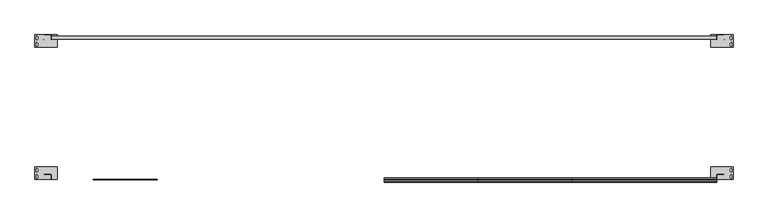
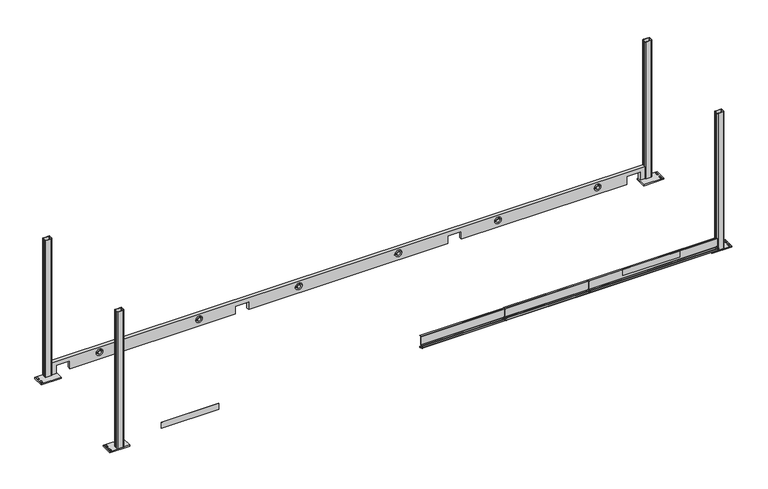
"""IFC4 building model written with IfcOpenShell, lengths in millimetres: beam geometry, Container_Frame1_Revised : Container_Frame1_Revised."""

from ifc_helpers import new_model, si_unit, point, frame, frame_2d, origin, place, context, project, spatial, polyline, circle_curve, trimmed, segment, composite_curve, outline, extrude, source, transform, mapped, element, save
from ifc_brep_helpers import plane_surface, revolved_surface, advanced_brep


def beam_2e7830ee(model_context):
    return source(origin(), model_context, "Body", "SolidModel", [
        advanced_brep(
        [(6529.5999779, -2878.0304074, 25.3752741), (6979.599836, -2878.0304074, 25.3752741), (6979.599836, -2628.0304055, 25.3752741), (6529.5999779, -2628.0304055, 25.3752741), (6957.3748049, -2798.0304291, 25.3752741), (6957.3748049, -2838.0304292, 25.3752741), (6925.6247171, -2838.0304292, 25.3752741), (6925.6246422, -2798.0304291, 25.3752741), (6957.3748049, -2668.0275841, 25.3752741), (6957.3748049, -2708.0304291, 25.3752741), (6925.6247171, -2708.0304291, 25.3752741), (6925.6246422, -2668.0275841, 25.3752741), (6529.5999779, -2878.0304074, 0.3752741), (6529.5999779, -2628.0304055, 0.3752741), (6979.599836, -2628.0304055, 0.3752741), (6979.599836, -2878.0304074, 0.3752741), (6957.3747299, -2798.0304291, 0.3752741), (6925.6247171, -2798.0304291, 0.3752741), (6925.6246422, -2838.0304292, 0.3752741), (6957.3747299, -2838.0304292, 0.3752741), (6957.3704194, -2668.0275841, 0.3752741), (6925.6290276, -2668.0275841, 0.3752741), (6925.6246422, -2708.0304291, 0.3752741), (6957.3747299, -2708.0304291, 0.3752741)],
        [
            (0, 1),
            (1, 2),
            (2, 3),
            (3, 0),
            (4, 5),
            (5, 6, circle_curve(frame((6941.4997235, -2838.0304292, 25.3752741), z_axis=(0.0, 0.0, -1.0), x_axis=(-1.0, 0.0, 0.0)), 15.8750064)),
            (6, 7),
            (7, 4, circle_curve(frame((6941.4997235, -2798.0304291, 25.3752741), z_axis=(0.0, 0.0, -1.0), x_axis=(-1.0, 0.0, 0.0)), 15.8750064)),
            (8, 9),
            (9, 10, circle_curve(frame((6941.4997235, -2708.0304291, 25.3752741), z_axis=(0.0, 0.0, -1.0), x_axis=(-1.0, 0.0, 0.0)), 15.8750064)),
            (10, 11),
            (11, 8, circle_curve(frame((6941.4997235, -2668.0275841, 25.3752741), z_axis=(0.0, 0.0, -1.0), x_axis=(-1.0, 0.0, 0.0)), 15.8706959)),
            (12, 13),
            (13, 14),
            (14, 15),
            (15, 12),
            (16, 17, circle_curve(frame((6941.4997235, -2798.0304291, 0.3752741), z_axis=(0.0, 0.0, 1.0), x_axis=(-1.0, 0.0, 0.0)), 15.8750064)),
            (17, 18),
            (18, 19, circle_curve(frame((6941.4997235, -2838.0304292, 0.3752741), z_axis=(0.0, 0.0, 1.0), x_axis=(-1.0, 0.0, 0.0)), 15.8750064)),
            (19, 16),
            (20, 21, circle_curve(frame((6941.4997235, -2668.0275841, 0.3752741), z_axis=(0.0, 0.0, 1.0), x_axis=(-1.0, 0.0, 0.0)), 15.8706959)),
            (21, 22),
            (22, 23, circle_curve(frame((6941.4997235, -2708.0304291, 0.3752741), z_axis=(0.0, 0.0, 1.0), x_axis=(-1.0, 0.0, 0.0)), 15.8750064)),
            (23, 20),
            (0, 12),
            (15, 1),
            (14, 2),
            (13, 3),
            (4, 16),
            (19, 5),
            (18, 6),
            (17, 7),
            (8, 20),
            (23, 9),
            (22, 10),
            (21, 11),
        ],
        [
            plane_surface(frame((6979.599836, -2878.0304074, 25.3752741), z_axis=(0.0, 0.0, 1.0), x_axis=(1.0, 0.0, 0.0))),
            plane_surface(frame((6979.599836, -2878.0304074, 0.3752741), z_axis=(0.0, 0.0, -1.0), x_axis=(-1.0, 0.0, 0.0))),
            plane_surface(frame((6529.5999779, -2878.0304074, 25.3752741), z_axis=(0.0, -1.0, 0.0), x_axis=(0.0, 0.0, -1.0))),
            plane_surface(frame((6979.599836, -2878.0304074, 25.3752741), z_axis=(1.0, 0.0, 0.0), x_axis=(0.0, 0.0, -1.0))),
            plane_surface(frame((6979.599836, -2628.0304055, 25.3752741), z_axis=(0.0, 1.0, 0.0), x_axis=(0.0, 0.0, -1.0))),
            plane_surface(frame((6529.5999779, -2628.0304055, 25.3752741), z_axis=(-1.0, 0.0, 0.0), x_axis=(0.0, 0.0, -1.0))),
            plane_surface(frame((6957.3748049, -2798.0304291, 25.3752741), z_axis=(-1.0, 0.0, 0.0), x_axis=(0.0, 0.0, -1.0))),
            revolved_surface(polyline([(6925.6247171, -2838.0304292, 0.3752741), (6925.6247171, -2838.0304292, 25.3752741)]), (6941.4997235, -2838.0304292, 0.3752741), (0.0, 0.0, -1.0)),
            plane_surface(frame((6925.6246422, -2838.0304292, 25.3752741), z_axis=(1.0, 0.0, 0.0), x_axis=(0.0, 0.0, -1.0))),
            revolved_surface(polyline([(6925.6247171, -2798.0304291, 0.3752741), (6925.6247171, -2798.0304291, 25.3752741)]), (6941.4997235, -2798.0304291, 0.3752741), (0.0, 0.0, -1.0)),
            plane_surface(frame((6957.3748049, -2668.0275841, 25.3752741), z_axis=(-1.0, 0.0, 0.0), x_axis=(0.0, 0.0, -1.0))),
            revolved_surface(polyline([(6925.6247171, -2708.0304291, 0.3752741), (6925.6247171, -2708.0304291, 25.3752741)]), (6941.4997235, -2708.0304291, 0.3752741), (0.0, 0.0, -1.0)),
            plane_surface(frame((6925.6246422, -2708.0304291, 25.3752741), z_axis=(1.0, 0.0, 0.0), x_axis=(0.0, 0.0, -1.0))),
            revolved_surface(polyline([(6925.6290276, -2668.0275841, 0.3752741), (6925.6290276, -2668.0275841, 25.3752741)]), (6941.4997235, -2668.0275841, 0.3752741), (0.0, 0.0, -1.0)),
        ],
        [
            (0, [[1, 2, 3, 4], [5, 6, 7, 8], [9, 10, 11, 12]]),
            (1, [[13, 14, 15, 16], [17, 18, 19, 20], [21, 22, 23, 24]]),
            (2, [[-1, 25, -16, 26]]),
            (3, [[-2, -26, -15, 27]]),
            (4, [[-3, -27, -14, 28]]),
            (5, [[-4, -28, -13, -25]]),
            (6, [[-5, 29, -20, 30]]),
            (7, [[-6, -30, -19, 31]]),
            (8, [[-7, -31, -18, 32]]),
            (9, [[-8, -32, -17, -29]]),
            (10, [[-9, 33, -24, 34]]),
            (11, [[-10, -34, -23, 35]]),
            (12, [[-11, -35, -22, 36]]),
            (13, [[-12, -36, -21, -33]]),
        ],
    ),
        advanced_brep(
        [(-6529.5999779, -2878.0304074, 25.3752743), (-6529.5999779, -2628.0304055, 25.3752743), (-6979.599836, -2628.0304055, 25.3752743), (-6979.599836, -2878.0304074, 25.3752743), (-6957.3747299, -2798.0304291, 25.3752743), (-6925.6247171, -2798.0304291, 25.3752743), (-6925.6246422, -2838.0304291, 25.3752743), (-6957.3747299, -2838.0304291, 25.3752743), (-6957.3704194, -2668.0275841, 25.3752743), (-6925.6290276, -2668.0275841, 25.3752743), (-6925.6246422, -2708.0304291, 25.3752743), (-6957.3747299, -2708.0304291, 25.3752743), (-6529.5999779, -2878.0304074, 0.3752741), (-6979.599836, -2878.0304074, 0.3752741), (-6979.599836, -2628.0304055, 0.3752741), (-6529.5999779, -2628.0304055, 0.3752741), (-6957.3748049, -2798.0304291, 0.3752741), (-6957.3748049, -2838.0304291, 0.3752741), (-6925.6247171, -2838.0304291, 0.3752741), (-6925.6246422, -2798.0304291, 0.3752741), (-6957.3748049, -2668.0275841, 0.3752741), (-6957.3748049, -2708.0304291, 0.3752741), (-6925.6247171, -2708.0304291, 0.3752741), (-6925.6246422, -2668.0275841, 0.3752741)],
        [
            (0, 1),
            (1, 2),
            (2, 3),
            (3, 0),
            (4, 5, circle_curve(frame((-6941.4997235, -2798.0304291, 25.3752743), z_axis=(0.0, 0.0, -1.0), x_axis=(1.0, 0.0, 0.0)), 15.8750064)),
            (5, 6),
            (6, 7, circle_curve(frame((-6941.4997235, -2838.0304291, 25.3752743), z_axis=(0.0, 0.0, -1.0), x_axis=(1.0, 0.0, 0.0)), 15.8750064)),
            (7, 4),
            (8, 9, circle_curve(frame((-6941.4997235, -2668.0275841, 25.3752743), z_axis=(0.0, 0.0, -1.0), x_axis=(1.0, 0.0, 0.0)), 15.8706959)),
            (9, 10),
            (10, 11, circle_curve(frame((-6941.4997235, -2708.0304291, 25.3752743), z_axis=(0.0, 0.0, -1.0), x_axis=(1.0, 0.0, 0.0)), 15.8750064)),
            (11, 8),
            (12, 13),
            (13, 14),
            (14, 15),
            (15, 12),
            (16, 17),
            (17, 18, circle_curve(frame((-6941.4997235, -2838.0304291, 0.3752741), z_axis=(0.0, 0.0, 1.0), x_axis=(1.0, 0.0, 0.0)), 15.8750064)),
            (18, 19),
            (19, 16, circle_curve(frame((-6941.4997235, -2798.0304291, 0.3752741), z_axis=(0.0, 0.0, 1.0), x_axis=(1.0, 0.0, 0.0)), 15.8750064)),
            (20, 21),
            (21, 22, circle_curve(frame((-6941.4997235, -2708.0304291, 0.3752741), z_axis=(0.0, 0.0, 1.0), x_axis=(1.0, 0.0, 0.0)), 15.8750064)),
            (22, 23),
            (23, 20, circle_curve(frame((-6941.4997235, -2668.0275841, 0.3752741), z_axis=(0.0, 0.0, 1.0), x_axis=(1.0, 0.0, 0.0)), 15.8706959)),
            (3, 13),
            (12, 0),
            (2, 14),
            (1, 15),
            (7, 17),
            (16, 4),
            (6, 18),
            (5, 19),
            (11, 21),
            (20, 8),
            (10, 22),
            (9, 23),
        ],
        [
            plane_surface(frame((-6529.5999779, -2878.0304074, 25.3752743), z_axis=(0.0, 0.0, 1.0), x_axis=(0.0, 1.0, 0.0))),
            plane_surface(frame((-6529.5999779, -2878.0304074, 0.3752741), z_axis=(0.0, 0.0, -1.0), x_axis=(0.0, -1.0, 0.0))),
            plane_surface(frame((-6979.599836, -2878.0304074, 25.3752743), z_axis=(0.0, -1.0, 0.0), x_axis=(0.0, 0.0, -1.0))),
            plane_surface(frame((-6979.599836, -2628.0304055, 25.3752743), z_axis=(-1.0, 0.0, 0.0), x_axis=(0.0, 0.0, -1.0))),
            plane_surface(frame((-6529.5999779, -2628.0304055, 25.3752743), z_axis=(0.0, 1.0, 0.0), x_axis=(0.0, 0.0, -1.0))),
            plane_surface(frame((-6529.5999779, -2878.0304074, 25.3752743), z_axis=(1.0, 0.0, 0.0), x_axis=(0.0, 0.0, -1.0))),
            plane_surface(frame((-6957.3748049, -2838.0304291, 25.3752743), z_axis=(1.0, 0.0, 0.0), x_axis=(0.0, 0.0, -1.0))),
            revolved_surface(polyline([(-6925.6247171, -2838.0304291, 0.3752741), (-6925.6247171, -2838.0304291, 25.3752743)]), (-6941.4997235, -2838.0304291, 0.3752741), (0.0, 0.0, -1.0)),
            plane_surface(frame((-6925.6246422, -2798.0304291, 25.3752743), z_axis=(-1.0, 0.0, 0.0), x_axis=(0.0, 0.0, -1.0))),
            revolved_surface(polyline([(-6925.6247171, -2798.0304291, 0.3752741), (-6925.6247171, -2798.0304291, 25.3752743)]), (-6941.4997235, -2798.0304291, 0.3752741), (0.0, 0.0, -1.0)),
            plane_surface(frame((-6957.3748049, -2708.0304291, 25.3752743), z_axis=(1.0, 0.0, 0.0), x_axis=(0.0, 0.0, -1.0))),
            revolved_surface(polyline([(-6925.6247171, -2708.0304291, 0.3752741), (-6925.6247171, -2708.0304291, 25.3752743)]), (-6941.4997235, -2708.0304291, 0.3752741), (0.0, 0.0, -1.0)),
            plane_surface(frame((-6925.6246422, -2668.0275841, 25.3752743), z_axis=(-1.0, 0.0, 0.0), x_axis=(0.0, 0.0, -1.0))),
            revolved_surface(polyline([(-6925.6290276, -2668.0275841, 0.3752741), (-6925.6290276, -2668.0275841, 25.3752743)]), (-6941.4997235, -2668.0275841, 0.3752741), (0.0, 0.0, -1.0)),
        ],
        [
            (0, [[1, 2, 3, 4], [5, 6, 7, 8], [9, 10, 11, 12]]),
            (1, [[13, 14, 15, 16], [17, 18, 19, 20], [21, 22, 23, 24]]),
            (2, [[-4, 25, -13, 26]]),
            (3, [[-3, 27, -14, -25]]),
            (4, [[-2, 28, -15, -27]]),
            (5, [[-1, -26, -16, -28]]),
            (6, [[-8, 29, -17, 30]]),
            (7, [[-7, 31, -18, -29]]),
            (8, [[-6, 32, -19, -31]]),
            (9, [[-5, -30, -20, -32]]),
            (10, [[-12, 33, -21, 34]]),
            (11, [[-11, 35, -22, -33]]),
            (12, [[-10, 36, -23, -35]]),
            (13, [[-9, -34, -24, -36]]),
        ],
    ),
        advanced_brep(
        [(6529.5999779, 21.9695491, 25.3752741), (6529.5999779, -228.0304528, 25.3752741), (6979.599836, -228.0304528, 25.3752741), (6979.599836, 21.9695491, 25.3752741), (6957.3747299, -58.0304291, 25.3752741), (6925.6247171, -58.0304291, 25.3752741), (6925.6246422, -18.0304291, 25.3752741), (6957.3747299, -18.0304291, 25.3752741), (6957.3704194, -188.0332742, 25.3752741), (6925.6290276, -188.0332742, 25.3752741), (6925.6246422, -148.0304291, 25.3752741), (6957.3747299, -148.0304291, 25.3752741), (6529.5999779, 21.9695491, 0.3752741), (6979.599836, 21.9695491, 0.3752741), (6979.599836, -228.0304528, 0.3752741), (6529.5999779, -228.0304528, 0.3752741), (6957.3748049, -58.0304291, 0.3752741), (6957.3748049, -18.0304291, 0.3752741), (6925.6247171, -18.0304291, 0.3752741), (6925.6246422, -58.0304291, 0.3752741), (6957.3748049, -188.0332742, 0.3752741), (6957.3748049, -148.0304291, 0.3752741), (6925.6247171, -148.0304291, 0.3752741), (6925.6246422, -188.0332742, 0.3752741)],
        [
            (0, 1),
            (1, 2),
            (2, 3),
            (3, 0),
            (4, 5, circle_curve(frame((6941.4997235, -58.0304291, 25.3752741), z_axis=(0.0, 0.0, -1.0), x_axis=(-1.0, 0.0, 0.0)), 15.8750064)),
            (5, 6),
            (6, 7, circle_curve(frame((6941.4997235, -18.0304291, 25.3752741), z_axis=(0.0, 0.0, -1.0), x_axis=(-1.0, 0.0, 0.0)), 15.8750064)),
            (7, 4),
            (8, 9, circle_curve(frame((6941.4997235, -188.0332742, 25.3752741), z_axis=(0.0, 0.0, -1.0), x_axis=(-1.0, 0.0, 0.0)), 15.8706959)),
            (9, 10),
            (10, 11, circle_curve(frame((6941.4997235, -148.0304291, 25.3752741), z_axis=(0.0, 0.0, -1.0), x_axis=(-1.0, 0.0, 0.0)), 15.8750064)),
            (11, 8),
            (12, 13),
            (13, 14),
            (14, 15),
            (15, 12),
            (16, 17),
            (17, 18, circle_curve(frame((6941.4997235, -18.0304291, 0.3752741), z_axis=(0.0, 0.0, 1.0), x_axis=(-1.0, 0.0, 0.0)), 15.8750064)),
            (18, 19),
            (19, 16, circle_curve(frame((6941.4997235, -58.0304291, 0.3752741), z_axis=(0.0, 0.0, 1.0), x_axis=(-1.0, 0.0, 0.0)), 15.8750064)),
            (20, 21),
            (21, 22, circle_curve(frame((6941.4997235, -148.0304291, 0.3752741), z_axis=(0.0, 0.0, 1.0), x_axis=(-1.0, 0.0, 0.0)), 15.8750064)),
            (22, 23),
            (23, 20, circle_curve(frame((6941.4997235, -188.0332742, 0.3752741), z_axis=(0.0, 0.0, 1.0), x_axis=(-1.0, 0.0, 0.0)), 15.8706959)),
            (3, 13),
            (12, 0),
            (2, 14),
            (1, 15),
            (7, 17),
            (16, 4),
            (6, 18),
            (5, 19),
            (11, 21),
            (20, 8),
            (10, 22),
            (9, 23),
        ],
        [
            plane_surface(frame((6529.5999779, 21.9695491, 25.3752741), z_axis=(0.0, 0.0, 1.0), x_axis=(0.0, -1.0, 0.0))),
            plane_surface(frame((6529.5999779, 21.9695491, 0.3752741), z_axis=(0.0, 0.0, -1.0), x_axis=(0.0, 1.0, 0.0))),
            plane_surface(frame((6979.599836, 21.9695491, 25.3752741), z_axis=(0.0, 1.0, 0.0), x_axis=(0.0, 0.0, -1.0))),
            plane_surface(frame((6979.599836, -228.0304528, 25.3752741), z_axis=(1.0, 0.0, 0.0), x_axis=(0.0, 0.0, -1.0))),
            plane_surface(frame((6529.5999779, -228.0304528, 25.3752741), z_axis=(0.0, -1.0, 0.0), x_axis=(0.0, 0.0, -1.0))),
            plane_surface(frame((6529.5999779, 21.9695491, 25.3752741), z_axis=(-1.0, 0.0, 0.0), x_axis=(0.0, 0.0, -1.0))),
            plane_surface(frame((6957.3748049, -18.0304291, 25.3752741), z_axis=(-1.0, 0.0, 0.0), x_axis=(0.0, 0.0, -1.0))),
            revolved_surface(polyline([(6925.6247171, -18.0304291, 0.3752741), (6925.6247171, -18.0304291, 25.3752741)]), (6941.4997235, -18.0304291, 0.3752741), (0.0, 0.0, -1.0)),
            plane_surface(frame((6925.6246422, -58.0304291, 25.3752741), z_axis=(1.0, 0.0, 0.0), x_axis=(0.0, 0.0, -1.0))),
            revolved_surface(polyline([(6925.6247171, -58.0304291, 0.3752741), (6925.6247171, -58.0304291, 25.3752741)]), (6941.4997235, -58.0304291, 0.3752741), (0.0, 0.0, -1.0)),
            plane_surface(frame((6957.3748049, -148.0304291, 25.3752741), z_axis=(-1.0, 0.0, 0.0), x_axis=(0.0, 0.0, -1.0))),
            revolved_surface(polyline([(6925.6247171, -148.0304291, 0.3752741), (6925.6247171, -148.0304291, 25.3752741)]), (6941.4997235, -148.0304291, 0.3752741), (0.0, 0.0, -1.0)),
            plane_surface(frame((6925.6246422, -188.0332742, 25.3752741), z_axis=(1.0, 0.0, 0.0), x_axis=(0.0, 0.0, -1.0))),
            revolved_surface(polyline([(6925.6290276, -188.0332742, 0.3752741), (6925.6290276, -188.0332742, 25.3752741)]), (6941.4997235, -188.0332742, 0.3752741), (0.0, 0.0, -1.0)),
        ],
        [
            (0, [[1, 2, 3, 4], [5, 6, 7, 8], [9, 10, 11, 12]]),
            (1, [[13, 14, 15, 16], [17, 18, 19, 20], [21, 22, 23, 24]]),
            (2, [[-4, 25, -13, 26]]),
            (3, [[-3, 27, -14, -25]]),
            (4, [[-2, 28, -15, -27]]),
            (5, [[-1, -26, -16, -28]]),
            (6, [[-8, 29, -17, 30]]),
            (7, [[-7, 31, -18, -29]]),
            (8, [[-6, 32, -19, -31]]),
            (9, [[-5, -30, -20, -32]]),
            (10, [[-12, 33, -21, 34]]),
            (11, [[-11, 35, -22, -33]]),
            (12, [[-10, 36, -23, -35]]),
            (13, [[-9, -34, -24, -36]]),
        ],
    ),
        advanced_brep(
        [(-6529.5999779, 21.9695491, 25.3752741), (-6979.599836, 21.9695491, 25.3752741), (-6979.599836, -228.0304528, 25.3752741), (-6529.5999779, -228.0304528, 25.3752741), (-6957.3748049, -58.0304291, 25.3752741), (-6957.3748049, -18.0304291, 25.3752741), (-6925.6247171, -18.0304291, 25.3752741), (-6925.6246422, -58.0304291, 25.3752741), (-6957.3748049, -188.0332742, 25.3752741), (-6957.3748049, -148.0304291, 25.3752741), (-6925.6247171, -148.0304291, 25.3752741), (-6925.6246422, -188.0332742, 25.3752741), (-6529.5999779, 21.9695491, 0.3752741), (-6529.5999779, -228.0304528, 0.3752741), (-6979.599836, -228.0304528, 0.3752741), (-6979.599836, 21.9695491, 0.3752741), (-6957.3747299, -58.0304291, 0.3752741), (-6925.6247171, -58.0304291, 0.3752741), (-6925.6246422, -18.0304291, 0.3752741), (-6957.3747299, -18.0304291, 0.3752741), (-6957.3704194, -188.0332742, 0.3752741), (-6925.6290276, -188.0332742, 0.3752741), (-6925.6246422, -148.0304291, 0.3752741), (-6957.3747299, -148.0304291, 0.3752741)],
        [
            (0, 1),
            (1, 2),
            (2, 3),
            (3, 0),
            (4, 5),
            (5, 6, circle_curve(frame((-6941.4997235, -18.0304291, 25.3752741), z_axis=(0.0, 0.0, -1.0), x_axis=(1.0, 0.0, 0.0)), 15.8750064)),
            (6, 7),
            (7, 4, circle_curve(frame((-6941.4997235, -58.0304291, 25.3752741), z_axis=(0.0, 0.0, -1.0), x_axis=(1.0, 0.0, 0.0)), 15.8750064)),
            (8, 9),
            (9, 10, circle_curve(frame((-6941.4997235, -148.0304291, 25.3752741), z_axis=(0.0, 0.0, -1.0), x_axis=(1.0, 0.0, 0.0)), 15.8750064)),
            (10, 11),
            (11, 8, circle_curve(frame((-6941.4997235, -188.0332742, 25.3752741), z_axis=(0.0, 0.0, -1.0), x_axis=(1.0, 0.0, 0.0)), 15.8706959)),
            (12, 13),
            (13, 14),
            (14, 15),
            (15, 12),
            (16, 17, circle_curve(frame((-6941.4997235, -58.0304291, 0.3752741), z_axis=(0.0, 0.0, 1.0), x_axis=(1.0, 0.0, 0.0)), 15.8750064)),
            (17, 18),
            (18, 19, circle_curve(frame((-6941.4997235, -18.0304291, 0.3752741), z_axis=(0.0, 0.0, 1.0), x_axis=(1.0, 0.0, 0.0)), 15.8750064)),
            (19, 16),
            (20, 21, circle_curve(frame((-6941.4997235, -188.0332742, 0.3752741), z_axis=(0.0, 0.0, 1.0), x_axis=(1.0, 0.0, 0.0)), 15.8706959)),
            (21, 22),
            (22, 23, circle_curve(frame((-6941.4997235, -148.0304291, 0.3752741), z_axis=(0.0, 0.0, 1.0), x_axis=(1.0, 0.0, 0.0)), 15.8750064)),
            (23, 20),
            (0, 12),
            (15, 1),
            (14, 2),
            (13, 3),
            (4, 16),
            (19, 5),
            (18, 6),
            (17, 7),
            (8, 20),
            (23, 9),
            (22, 10),
            (21, 11),
        ],
        [
            plane_surface(frame((-6979.599836, 21.9695491, 25.3752741), z_axis=(0.0, 0.0, 1.0), x_axis=(-1.0, 0.0, 0.0))),
            plane_surface(frame((-6979.599836, 21.9695491, 0.3752741), z_axis=(0.0, 0.0, -1.0), x_axis=(1.0, 0.0, 0.0))),
            plane_surface(frame((-6529.5999779, 21.9695491, 25.3752741), z_axis=(0.0, 1.0, 0.0), x_axis=(0.0, 0.0, -1.0))),
            plane_surface(frame((-6979.599836, 21.9695491, 25.3752741), z_axis=(-1.0, 0.0, 0.0), x_axis=(0.0, 0.0, -1.0))),
            plane_surface(frame((-6979.599836, -228.0304528, 25.3752741), z_axis=(0.0, -1.0, 0.0), x_axis=(0.0, 0.0, -1.0))),
            plane_surface(frame((-6529.5999779, -228.0304528, 25.3752741), z_axis=(1.0, 0.0, 0.0), x_axis=(0.0, 0.0, -1.0))),
            plane_surface(frame((-6957.3748049, -58.0304291, 25.3752741), z_axis=(1.0, 0.0, 0.0), x_axis=(0.0, 0.0, -1.0))),
            revolved_surface(polyline([(-6925.6247171, -18.0304291, 0.3752741), (-6925.6247171, -18.0304291, 25.3752741)]), (-6941.4997235, -18.0304291, 0.3752741), (0.0, 0.0, -1.0)),
            plane_surface(frame((-6925.6246422, -18.0304291, 25.3752741), z_axis=(-1.0, 0.0, 0.0), x_axis=(0.0, 0.0, -1.0))),
            revolved_surface(polyline([(-6925.6247171, -58.0304291, 0.3752741), (-6925.6247171, -58.0304291, 25.3752741)]), (-6941.4997235, -58.0304291, 0.3752741), (0.0, 0.0, -1.0)),
            plane_surface(frame((-6957.3748049, -188.0332742, 25.3752741), z_axis=(1.0, 0.0, 0.0), x_axis=(0.0, 0.0, -1.0))),
            revolved_surface(polyline([(-6925.6247171, -148.0304291, 0.3752741), (-6925.6247171, -148.0304291, 25.3752741)]), (-6941.4997235, -148.0304291, 0.3752741), (0.0, 0.0, -1.0)),
            plane_surface(frame((-6925.6246422, -148.0304291, 25.3752741), z_axis=(-1.0, 0.0, 0.0), x_axis=(0.0, 0.0, -1.0))),
            revolved_surface(polyline([(-6925.6290276, -188.0332742, 0.3752741), (-6925.6290276, -188.0332742, 25.3752741)]), (-6941.4997235, -188.0332742, 0.3752741), (0.0, 0.0, -1.0)),
        ],
        [
            (0, [[1, 2, 3, 4], [5, 6, 7, 8], [9, 10, 11, 12]]),
            (1, [[13, 14, 15, 16], [17, 18, 19, 20], [21, 22, 23, 24]]),
            (2, [[-1, 25, -16, 26]]),
            (3, [[-2, -26, -15, 27]]),
            (4, [[-3, -27, -14, 28]]),
            (5, [[-4, -28, -13, -25]]),
            (6, [[-5, 29, -20, 30]]),
            (7, [[-6, -30, -19, 31]]),
            (8, [[-7, -31, -18, 32]]),
            (9, [[-8, -32, -17, -29]]),
            (10, [[-9, 33, -24, 34]]),
            (11, [[-10, -34, -23, 35]]),
            (12, [[-11, -35, -22, 36]]),
            (13, [[-12, -36, -21, -33]]),
        ],
    ),
        extrude(outline(composite_curve([segment(polyline([(6791.2086196, -79.6304509), (6670.7913804, -79.6304509)]), True, "CONTINUOUS"), segment(trimmed(circle_curve(frame_2d((6670.7913804, -63.6390705)), 15.9913804), [point((6670.7913804, -79.6304509))], [point((6654.8, -63.6390705))], False, "CARTESIAN"), True, "CONTINUOUS"), segment(polyline([(6654.8, -63.6390705), (6654.8, 5.9781687)]), True, "CONTINUOUS"), segment(trimmed(circle_curve(frame_2d((6670.7913804, 5.9781687)), 15.9913804), [point((6654.8, 5.9781687))], [point((6670.7913804, 21.9695491))], False, "CARTESIAN"), True, "CONTINUOUS"), segment(polyline([(6670.7913804, 21.9695491), (6791.2086196, 21.9695491)]), True, "CONTINUOUS"), segment(trimmed(circle_curve(frame_2d((6791.2086196, 5.9781687)), 15.9913804), [point((6791.2086196, 21.9695491))], [point((6807.2, 5.9781687))], False, "CARTESIAN"), True, "CONTINUOUS"), segment(polyline([(6807.2, 5.9781687), (6807.2, -63.6390705)]), True, "CONTINUOUS"), segment(trimmed(circle_curve(frame_2d((6791.2086196, -63.6390705)), 15.9913804), [point((6807.2, -63.6390705))], [point((6791.2086196, -79.6304509))], False, "CARTESIAN"), True, "CONTINUOUS")], self_intersect=False), holes=[composite_curve([segment(trimmed(circle_curve(frame_2d((6791.2086196, -63.6390705)), 7.9913804), [point((6791.2086196, -71.6304509))], [point((6799.2, -63.6390705))], True, "CARTESIAN"), True, "CONTINUOUS"), segment(polyline([(6799.2, -63.6390705), (6799.2, 5.9781687)]), True, "CONTINUOUS"), segment(trimmed(circle_curve(frame_2d((6791.2086196, 5.9781687)), 7.9913804), [point((6799.2, 5.9781687))], [point((6791.2086196, 13.9695491))], True, "CARTESIAN"), True, "CONTINUOUS"), segment(polyline([(6791.2086196, 13.9695491), (6670.7913804, 13.9695491)]), True, "CONTINUOUS"), segment(trimmed(circle_curve(frame_2d((6670.7913804, 5.9781687)), 7.9913804), [point((6670.7913804, 13.9695491))], [point((6662.8, 5.9781687))], True, "CARTESIAN"), True, "CONTINUOUS"), segment(polyline([(6662.8, 5.9781687), (6662.8, -63.6390705)]), True, "CONTINUOUS"), segment(trimmed(circle_curve(frame_2d((6670.7913804, -63.6390705)), 7.9913804), [point((6662.8, -63.6390705))], [point((6670.7913804, -71.6304509))], True, "CARTESIAN"), True, "CONTINUOUS"), segment(polyline([(6670.7913804, -71.6304509), (6791.2086196, -71.6304509)]), True, "CONTINUOUS")], self_intersect=False)]), frame((0.0, 0.0, 25.0), z_axis=(0.0, 0.0, 1.0), x_axis=(1.0, 0.0, 0.0)), (0.0, 0.0, 1.0), 3250.0),
        extrude(outline(composite_curve([segment(trimmed(circle_curve(frame_2d((-6791.2086196, -63.6390705)), 15.9913804), [point((-6791.2086196, -79.6304509))], [point((-6807.2, -63.6390705))], False, "CARTESIAN"), True, "CONTINUOUS"), segment(polyline([(-6807.2, -63.6390705), (-6807.2, 5.9781687)]), True, "CONTINUOUS"), segment(trimmed(circle_curve(frame_2d((-6791.2086196, 5.9781687)), 15.9913804), [point((-6807.2, 5.9781687))], [point((-6791.2086196, 21.9695491))], False, "CARTESIAN"), True, "CONTINUOUS"), segment(polyline([(-6791.2086196, 21.9695491), (-6670.7913804, 21.9695491)]), True, "CONTINUOUS"), segment(trimmed(circle_curve(frame_2d((-6670.7913804, 5.9781687)), 15.9913804), [point((-6670.7913804, 21.9695491))], [point((-6654.8, 5.9781687))], False, "CARTESIAN"), True, "CONTINUOUS"), segment(polyline([(-6654.8, 5.9781687), (-6654.8, -63.6390705)]), True, "CONTINUOUS"), segment(trimmed(circle_curve(frame_2d((-6670.7913804, -63.6390705)), 15.9913804), [point((-6654.8, -63.6390705))], [point((-6670.7913804, -79.6304509))], False, "CARTESIAN"), True, "CONTINUOUS"), segment(polyline([(-6670.7913804, -79.6304509), (-6791.2086196, -79.6304509)]), True, "CONTINUOUS")], self_intersect=False), holes=[composite_curve([segment(polyline([(-6791.2086196, -71.6304509), (-6670.7913804, -71.6304509)]), True, "CONTINUOUS"), segment(trimmed(circle_curve(frame_2d((-6670.7913804, -63.6390705)), 7.9913804), [point((-6670.7913804, -71.6304509))], [point((-6662.8, -63.6390705))], True, "CARTESIAN"), True, "CONTINUOUS"), segment(polyline([(-6662.8, -63.6390705), (-6662.8, 5.9781687)]), True, "CONTINUOUS"), segment(trimmed(circle_curve(frame_2d((-6670.7913804, 5.9781687)), 7.9913804), [point((-6662.8, 5.9781687))], [point((-6670.7913804, 13.9695491))], True, "CARTESIAN"), True, "CONTINUOUS"), segment(polyline([(-6670.7913804, 13.9695491), (-6791.2086196, 13.9695491)]), True, "CONTINUOUS"), segment(trimmed(circle_curve(frame_2d((-6791.2086196, 5.9781687)), 7.9913804), [point((-6791.2086196, 13.9695491))], [point((-6799.2, 5.9781687))], True, "CARTESIAN"), True, "CONTINUOUS"), segment(polyline([(-6799.2, 5.9781687), (-6799.2, -63.6390705)]), True, "CONTINUOUS"), segment(trimmed(circle_curve(frame_2d((-6791.2086196, -63.6390705)), 7.9913804), [point((-6799.2, -63.6390705))], [point((-6791.2086196, -71.6304509))], True, "CARTESIAN"), True, "CONTINUOUS")], self_intersect=False)]), frame((0.0, 0.0, 25.0), z_axis=(0.0, 0.0, 1.0), x_axis=(1.0, 0.0, 0.0)), (0.0, 0.0, 1.0), 3250.0),
        extrude(outline(composite_curve([segment(trimmed(circle_curve(frame_2d((6791.2086196, -2792.4218313)), 15.9913804), [point((6791.2086196, -2776.4304509))], [point((6807.2, -2792.4218313))], False, "CARTESIAN"), True, "CONTINUOUS"), segment(polyline([(6807.2, -2792.4218313), (6807.2, -2862.0390705)]), True, "CONTINUOUS"), segment(trimmed(circle_curve(frame_2d((6791.2086196, -2862.0390705)), 15.9913804), [point((6807.2, -2862.0390705))], [point((6791.2086196, -2878.0304509))], False, "CARTESIAN"), True, "CONTINUOUS"), segment(polyline([(6791.2086196, -2878.0304509), (6670.7913804, -2878.0304509)]), True, "CONTINUOUS"), segment(trimmed(circle_curve(frame_2d((6670.7913804, -2862.0390705)), 15.9913804), [point((6670.7913804, -2878.0304509))], [point((6654.8, -2862.0390705))], False, "CARTESIAN"), True, "CONTINUOUS"), segment(polyline([(6654.8, -2862.0390705), (6654.8, -2792.4218313)]), True, "CONTINUOUS"), segment(trimmed(circle_curve(frame_2d((6670.7913804, -2792.4218313)), 15.9913804), [point((6654.8, -2792.4218313))], [point((6670.7913804, -2776.4304509))], False, "CARTESIAN"), True, "CONTINUOUS"), segment(polyline([(6670.7913804, -2776.4304509), (6791.2086196, -2776.4304509)]), True, "CONTINUOUS")], self_intersect=False), holes=[composite_curve([segment(polyline([(6791.2086196, -2784.4304509), (6670.7913804, -2784.4304509)]), True, "CONTINUOUS"), segment(trimmed(circle_curve(frame_2d((6670.7913804, -2792.4218313)), 7.9913804), [point((6670.7913804, -2784.4304509))], [point((6662.8, -2792.4218313))], True, "CARTESIAN"), True, "CONTINUOUS"), segment(polyline([(6662.8, -2792.4218313), (6662.8, -2862.0390705)]), True, "CONTINUOUS"), segment(trimmed(circle_curve(frame_2d((6670.7913804, -2862.0390705)), 7.9913804), [point((6662.8, -2862.0390705))], [point((6670.7913804, -2870.0304509))], True, "CARTESIAN"), True, "CONTINUOUS"), segment(polyline([(6670.7913804, -2870.0304509), (6791.2086196, -2870.0304509)]), True, "CONTINUOUS"), segment(trimmed(circle_curve(frame_2d((6791.2086196, -2862.0390705)), 7.9913804), [point((6791.2086196, -2870.0304509))], [point((6799.2, -2862.0390705))], True, "CARTESIAN"), True, "CONTINUOUS"), segment(polyline([(6799.2, -2862.0390705), (6799.2, -2792.4218313)]), True, "CONTINUOUS"), segment(trimmed(circle_curve(frame_2d((6791.2086196, -2792.4218313)), 7.9913804), [point((6799.2, -2792.4218313))], [point((6791.2086196, -2784.4304509))], True, "CARTESIAN"), True, "CONTINUOUS")], self_intersect=False)]), frame((0.0, 0.0, 25.0), z_axis=(0.0, 0.0, 1.0), x_axis=(1.0, 0.0, 0.0)), (0.0, 0.0, 1.0), 3250.0),
        extrude(outline(composite_curve([segment(polyline([(-6791.2086196, -2776.4304509), (-6670.7913804, -2776.4304509)]), True, "CONTINUOUS"), segment(trimmed(circle_curve(frame_2d((-6670.7913804, -2792.4218313)), 15.9913804), [point((-6670.7913804, -2776.4304509))], [point((-6654.8, -2792.4218313))], False, "CARTESIAN"), True, "CONTINUOUS"), segment(polyline([(-6654.8, -2792.4218313), (-6654.8, -2862.0390705)]), True, "CONTINUOUS"), segment(trimmed(circle_curve(frame_2d((-6670.7913804, -2862.0390705)), 15.9913804), [point((-6654.8, -2862.0390705))], [point((-6670.7913804, -2878.0304509))], False, "CARTESIAN"), True, "CONTINUOUS"), segment(polyline([(-6670.7913804, -2878.0304509), (-6791.2086196, -2878.0304509)]), True, "CONTINUOUS"), segment(trimmed(circle_curve(frame_2d((-6791.2086196, -2862.0390705)), 15.9913804), [point((-6791.2086196, -2878.0304509))], [point((-6807.2, -2862.0390705))], False, "CARTESIAN"), True, "CONTINUOUS"), segment(polyline([(-6807.2, -2862.0390705), (-6807.2, -2792.4218313)]), True, "CONTINUOUS"), segment(trimmed(circle_curve(frame_2d((-6791.2086196, -2792.4218313)), 15.9913804), [point((-6807.2, -2792.4218313))], [point((-6791.2086196, -2776.4304509))], False, "CARTESIAN"), True, "CONTINUOUS")], self_intersect=False), holes=[composite_curve([segment(trimmed(circle_curve(frame_2d((-6791.2086196, -2792.4218313)), 7.9913804), [point((-6791.2086196, -2784.4304509))], [point((-6799.2, -2792.4218313))], True, "CARTESIAN"), True, "CONTINUOUS"), segment(polyline([(-6799.2, -2792.4218313), (-6799.2, -2862.0390705)]), True, "CONTINUOUS"), segment(trimmed(circle_curve(frame_2d((-6791.2086196, -2862.0390705)), 7.9913804), [point((-6799.2, -2862.0390705))], [point((-6791.2086196, -2870.0304509))], True, "CARTESIAN"), True, "CONTINUOUS"), segment(polyline([(-6791.2086196, -2870.0304509), (-6670.7913804, -2870.0304509)]), True, "CONTINUOUS"), segment(trimmed(circle_curve(frame_2d((-6670.7913804, -2862.0390705)), 7.9913804), [point((-6670.7913804, -2870.0304509))], [point((-6662.8, -2862.0390705))], True, "CARTESIAN"), True, "CONTINUOUS"), segment(polyline([(-6662.8, -2862.0390705), (-6662.8, -2792.4218313)]), True, "CONTINUOUS"), segment(trimmed(circle_curve(frame_2d((-6670.7913804, -2792.4218313)), 7.9913804), [point((-6662.8, -2792.4218313))], [point((-6670.7913804, -2784.4304509))], True, "CARTESIAN"), True, "CONTINUOUS"), segment(polyline([(-6670.7913804, -2784.4304509), (-6791.2086196, -2784.4304509)]), True, "CONTINUOUS")], self_intersect=False)]), frame((0.0, 0.0, 25.0), z_axis=(0.0, 0.0, 1.0), x_axis=(1.0, 0.0, 0.0)), (0.0, 0.0, 1.0), 3250.0),
        extrude(outline(polyline([(32.8398424, 6654.8), (317.7802168, 6654.8), (317.7802168, -6654.8), (32.8398421, -6654.8), (32.8398421, -6553.2032702), (217.7558237, -6553.2032702), (217.7558237, -6247.4032702), (32.8398421, -6247.4032702), (32.8398421, -2540.9132702), (217.6615916, -2540.9132702), (217.6615916, -2235.1132702), (32.8398421, -2235.1132702), (32.8398421, 2229.7067298), (217.4684579, 2229.7067298), (217.4684579, 2535.5067298), (32.8398424, 2535.5067298), (32.8398424, 6241.8967298), (217.7557626, 6241.8967298), (217.7557626, 6547.6), (32.8398424, 6547.6), (32.8398424, 6654.8)]), holes=[composite_curve([segment(trimmed(circle_curve(frame_2d((190.0658466, 5594.3965615)), 75.0), [point((190.0658466, 5519.3965615))], [point((190.0658466, 5669.3965615))], True, "CARTESIAN"), True, "CONTINUOUS"), segment(trimmed(circle_curve(frame_2d((190.0658466, 5594.3965615)), 75.0), [point((190.0658466, 5669.3965615))], [point((190.0658466, 5519.3965615))], True, "CARTESIAN"), True, "CONTINUOUS")], self_intersect=False), composite_curve([segment(trimmed(circle_curve(frame_2d((190.0658466, 3359.3965615)), 75.0), [point((190.0658466, 3284.3965615))], [point((190.0658466, 3434.3965615))], True, "CARTESIAN"), True, "CONTINUOUS"), segment(trimmed(circle_curve(frame_2d((190.0658466, 3359.3965615)), 75.0), [point((190.0658466, 3434.3965615))], [point((190.0658466, 3284.3965615))], True, "CARTESIAN"), True, "CONTINUOUS")], self_intersect=False), composite_curve([segment(trimmed(circle_curve(frame_2d((190.0658466, 1124.3965615)), 75.0), [point((190.0658466, 1049.3965615))], [point((190.0658466, 1199.3965615))], True, "CARTESIAN"), True, "CONTINUOUS"), segment(trimmed(circle_curve(frame_2d((190.0658466, 1124.3965615)), 75.0), [point((190.0658466, 1199.3965615))], [point((190.0658466, 1049.3965615))], True, "CARTESIAN"), True, "CONTINUOUS")], self_intersect=False), composite_curve([segment(trimmed(circle_curve(frame_2d((190.0658466, -1110.6034385)), 75.0), [point((190.0658466, -1185.6034385))], [point((190.0658466, -1035.6034385))], True, "CARTESIAN"), True, "CONTINUOUS"), segment(trimmed(circle_curve(frame_2d((190.0658466, -1110.6034385)), 75.0), [point((190.0658466, -1035.6034385))], [point((190.0658466, -1185.6034385))], True, "CARTESIAN"), True, "CONTINUOUS")], self_intersect=False), composite_curve([segment(trimmed(circle_curve(frame_2d((190.0658466, -3345.6034385)), 75.0), [point((190.0658466, -3420.6034385))], [point((190.0658466, -3270.6034385))], True, "CARTESIAN"), True, "CONTINUOUS"), segment(trimmed(circle_curve(frame_2d((190.0658466, -3345.6034385)), 75.0), [point((190.0658466, -3270.6034385))], [point((190.0658466, -3420.6034385))], True, "CARTESIAN"), True, "CONTINUOUS")], self_intersect=False), composite_curve([segment(trimmed(circle_curve(frame_2d((190.0658466, -5580.6034385)), 75.0), [point((190.0658466, -5655.6034385))], [point((190.0658466, -5505.6034385))], True, "CARTESIAN"), True, "CONTINUOUS"), segment(trimmed(circle_curve(frame_2d((190.0658466, -5580.6034385)), 75.0), [point((190.0658466, -5505.6034385))], [point((190.0658466, -5655.6034385))], True, "CARTESIAN"), True, "CONTINUOUS")], self_intersect=False)]), frame((0.0, -65.0, 0.0), z_axis=(0.0, 1.0, 0.0), x_axis=(0.0, 0.0, 1.0)), (0.0, 0.0, 1.0), 65.0),
        extrude(outline(composite_curve([segment(trimmed(circle_curve(frame_2d((190.0655101, 5594.3967298)), 38.6719001), [point((190.0655101, 5555.7248296))], [point((190.0655101, 5633.0686299))], False, "CARTESIAN"), True, "CONTINUOUS"), segment(trimmed(circle_curve(frame_2d((190.0655101, 5594.3967298)), 38.6719001), [point((190.0655101, 5633.0686299))], [point((190.0655101, 5555.7248296))], False, "CARTESIAN"), True, "CONTINUOUS")], self_intersect=False)), frame((0.0, -65.0, 0.0), z_axis=(0.0, 1.0, 0.0), x_axis=(0.0, 0.0, 1.0)), (0.0, 0.0, 1.0), 65.0),
        extrude(outline(composite_curve([segment(trimmed(circle_curve(frame_2d((190.0655101, 3359.3967298)), 38.6719001), [point((190.0655101, 3320.7248296))], [point((190.0655101, 3398.0686299))], False, "CARTESIAN"), True, "CONTINUOUS"), segment(trimmed(circle_curve(frame_2d((190.0655101, 3359.3967298)), 38.6719001), [point((190.0655101, 3398.0686299))], [point((190.0655101, 3320.7248296))], False, "CARTESIAN"), True, "CONTINUOUS")], self_intersect=False)), frame((0.0, -65.0, 0.0), z_axis=(0.0, 1.0, 0.0), x_axis=(0.0, 0.0, 1.0)), (0.0, 0.0, 1.0), 65.0),
        extrude(outline(composite_curve([segment(trimmed(circle_curve(frame_2d((190.0655101, 1124.3967298)), 38.6719001), [point((190.0655101, 1085.7248296))], [point((190.0655101, 1163.0686299))], False, "CARTESIAN"), True, "CONTINUOUS"), segment(trimmed(circle_curve(frame_2d((190.0655101, 1124.3967298)), 38.6719001), [point((190.0655101, 1163.0686299))], [point((190.0655101, 1085.7248296))], False, "CARTESIAN"), True, "CONTINUOUS")], self_intersect=False)), frame((0.0, -65.0, 0.0), z_axis=(0.0, 1.0, 0.0), x_axis=(0.0, 0.0, 1.0)), (0.0, 0.0, 1.0), 65.0),
        extrude(outline(composite_curve([segment(trimmed(circle_curve(frame_2d((190.0655101, -1110.6032702)), 38.6719001), [point((190.0655101, -1149.2751704))], [point((190.0655101, -1071.9313701))], False, "CARTESIAN"), True, "CONTINUOUS"), segment(trimmed(circle_curve(frame_2d((190.0655101, -1110.6032702)), 38.6719001), [point((190.0655101, -1071.9313701))], [point((190.0655101, -1149.2751704))], False, "CARTESIAN"), True, "CONTINUOUS")], self_intersect=False)), frame((0.0, -65.0, 0.0), z_axis=(0.0, 1.0, 0.0), x_axis=(0.0, 0.0, 1.0)), (0.0, 0.0, 1.0), 65.0),
        extrude(outline(composite_curve([segment(trimmed(circle_curve(frame_2d((190.0655101, -3345.6032702)), 38.6719001), [point((190.0655101, -3384.2751704))], [point((190.0655101, -3306.9313701))], False, "CARTESIAN"), True, "CONTINUOUS"), segment(trimmed(circle_curve(frame_2d((190.0655101, -3345.6032702)), 38.6719001), [point((190.0655101, -3306.9313701))], [point((190.0655101, -3384.2751704))], False, "CARTESIAN"), True, "CONTINUOUS")], self_intersect=False)), frame((0.0, -65.0, 0.0), z_axis=(0.0, 1.0, 0.0), x_axis=(0.0, 0.0, 1.0)), (0.0, 0.0, 1.0), 65.0),
        extrude(outline(composite_curve([segment(trimmed(circle_curve(frame_2d((190.0655101, -5580.6032702)), 38.6719001), [point((190.0655101, -5619.2751704))], [point((190.0655101, -5541.9313701))], False, "CARTESIAN"), True, "CONTINUOUS"), segment(trimmed(circle_curve(frame_2d((190.0655101, -5580.6032702)), 38.6719001), [point((190.0655101, -5541.9313701))], [point((190.0655101, -5619.2751704))], False, "CARTESIAN"), True, "CONTINUOUS")], self_intersect=False)), frame((0.0, -65.0, 0.0), z_axis=(0.0, 1.0, 0.0), x_axis=(0.0, 0.0, 1.0)), (0.0, 0.0, 1.0), 65.0),
        extrude(outline(polyline([(5816.4260136, -2879.0304509), (4536.774, -2879.0304509), (4536.774, -2878.0304509), (5816.4260136, -2878.0304509), (5816.4260136, -2879.0304509)])), frame((0.0, 0.0, 173.3602393), z_axis=(0.0, 0.0, 1.0), x_axis=(1.0, 0.0, 0.0)), (0.0, 0.0, 1.0), 141.1179624),
        extrude(outline(polyline([(-4535.3739864, -2879.0304509), (-5815.026, -2879.0304509), (-5815.026, -2878.0304509), (-4535.3739864, -2878.0304509), (-4535.3739864, -2879.0304509)])), frame((0.0, 0.0, 173.3602393), z_axis=(0.0, 0.0, 1.0), x_axis=(1.0, 0.0, 0.0)), (0.0, 0.0, 1.0), 141.1179624),
        extrude(outline(composite_curve([segment(polyline([(-2839.9360336, 314.4782018), (-2872.4480298, 314.4782018)]), True, "CONTINUOUS"), segment(trimmed(circle_curve(frame_2d((-2872.4480298, 312.1921994)), 2.2860024), [point((-2872.4480298, 314.4782018))], [point((-2874.7340322, 312.1921994))], True, "CARTESIAN"), True, "CONTINUOUS"), segment(polyline([(-2874.7340322, 312.1921994), (-2874.7340322, 118.3420006)]), True, "CONTINUOUS"), segment(trimmed(circle_curve(frame_2d((-2880.316454, 118.6658126)), 5.5918054), [point((-2874.7340322, 118.3420006))], [point((-2880.316454, 113.0740072))], False, "CARTESIAN"), True, "CONTINUOUS"), segment(polyline([(-2880.316454, 113.0740072), (-2923.2424524, 113.0740072)]), True, "CONTINUOUS"), segment(trimmed(circle_curve(frame_2d((-2923.2424524, 110.7880073)), 2.286), [point((-2923.2424524, 113.0740072))], [point((-2925.5284524, 110.7880073))], True, "CARTESIAN"), True, "CONTINUOUS"), segment(polyline([(-2925.5284524, 110.7880073), (-2925.5284524, 71.1640072)]), True, "CONTINUOUS"), segment(trimmed(circle_curve(frame_2d((-2923.2424524, 71.1640072)), 2.2859999), [point((-2925.5284524, 71.1640072))], [point((-2923.2424524, 68.8780072))], True, "CARTESIAN"), True, "CONTINUOUS"), segment(polyline([(-2923.2424524, 68.8780072), (-2854.9164524, 68.8780073)]), True, "CONTINUOUS"), segment(trimmed(circle_curve(frame_2d((-2854.9164524, 63.2900073)), 5.588), [point((-2854.9164524, 68.8780073))], [point((-2849.3284524, 63.2900073))], False, "CARTESIAN"), True, "CONTINUOUS"), segment(polyline([(-2849.3284524, 63.2900073), (-2849.3284524, 35.3500073), (-2852.6304524, 35.3500073), (-2852.6304524, 63.2900073)]), True, "CONTINUOUS"), segment(trimmed(circle_curve(frame_2d((-2854.9164524, 63.2900073)), 2.286), [point((-2852.6304524, 63.2900073))], [point((-2854.9164524, 65.5760073))], True, "CARTESIAN"), True, "CONTINUOUS"), segment(polyline([(-2854.9164524, 65.5760073), (-2923.2424525, 65.5760073)]), True, "CONTINUOUS"), segment(trimmed(circle_curve(frame_2d((-2923.2424525, 71.1640072)), 5.5879999), [point((-2923.2424525, 65.5760073))], [point((-2928.8304524, 71.1640072))], False, "CARTESIAN"), True, "CONTINUOUS"), segment(polyline([(-2928.8304524, 71.1640072), (-2928.8304524, 110.7880087)]), True, "CONTINUOUS"), segment(trimmed(circle_curve(frame_2d((-2923.2424525, 110.7880087)), 5.5879999), [point((-2928.8304524, 110.7880087))], [point((-2923.2424525, 116.3760086))], False, "CARTESIAN"), True, "CONTINUOUS"), segment(polyline([(-2923.2424525, 116.3760086), (-2880.316454, 116.3760086)]), True, "CONTINUOUS"), segment(trimmed(circle_curve(frame_2d((-2880.316454, 118.6825446)), 2.306536), [point((-2880.316454, 116.3760086))], [point((-2878.0304509, 118.9896246))], True, "CARTESIAN"), True, "CONTINUOUS"), segment(polyline([(-2878.0304509, 118.9896246), (-2878.0304509, 312.1977957)]), True, "CONTINUOUS"), segment(trimmed(circle_curve(frame_2d((-2872.4480298, 312.1977957)), 5.5824211), [point((-2878.0304509, 312.1977957))], [point((-2872.4480298, 317.7802168))], False, "CARTESIAN"), True, "CONTINUOUS"), segment(polyline([(-2872.4480298, 317.7802168), (-2839.9360336, 317.7802168), (-2839.9360336, 314.4782018)]), True, "CONTINUOUS")], self_intersect=False)), frame((3766.2, 0.0, 0.0), z_axis=(1.0, 0.0, 0.0), x_axis=(0.0, 1.0, 0.0)), (0.0, 0.0, 1.0), 2888.6),
        extrude(outline(composite_curve([segment(polyline([(-2839.9360336, 314.4782018), (-2872.4480298, 314.4782018)]), True, "CONTINUOUS"), segment(trimmed(circle_curve(frame_2d((-2872.4480298, 312.1921994)), 2.2860024), [point((-2872.4480298, 314.4782018))], [point((-2874.7340322, 312.1921994))], True, "CARTESIAN"), True, "CONTINUOUS"), segment(polyline([(-2874.7340322, 312.1921994), (-2874.7340322, 118.3420006)]), True, "CONTINUOUS"), segment(trimmed(circle_curve(frame_2d((-2880.316454, 118.6658126)), 5.5918054), [point((-2874.7340322, 118.3420006))], [point((-2880.316454, 113.0740072))], False, "CARTESIAN"), True, "CONTINUOUS"), segment(polyline([(-2880.316454, 113.0740072), (-2923.2424524, 113.0740072)]), True, "CONTINUOUS"), segment(trimmed(circle_curve(frame_2d((-2923.2424524, 110.7880073)), 2.286), [point((-2923.2424524, 113.0740072))], [point((-2925.5284524, 110.7880073))], True, "CARTESIAN"), True, "CONTINUOUS"), segment(polyline([(-2925.5284524, 110.7880073), (-2925.5284524, 71.1640072)]), True, "CONTINUOUS"), segment(trimmed(circle_curve(frame_2d((-2923.2424524, 71.1640072)), 2.2859999), [point((-2925.5284524, 71.1640072))], [point((-2923.2424524, 68.8780072))], True, "CARTESIAN"), True, "CONTINUOUS"), segment(polyline([(-2923.2424524, 68.8780072), (-2854.9164524, 68.8780073)]), True, "CONTINUOUS"), segment(trimmed(circle_curve(frame_2d((-2854.9164524, 63.2900073)), 5.588), [point((-2854.9164524, 68.8780073))], [point((-2849.3284524, 63.2900073))], False, "CARTESIAN"), True, "CONTINUOUS"), segment(polyline([(-2849.3284524, 63.2900073), (-2849.3284524, 35.3500073), (-2852.6304524, 35.3500073), (-2852.6304524, 63.2900073)]), True, "CONTINUOUS"), segment(trimmed(circle_curve(frame_2d((-2854.9164524, 63.2900073)), 2.286), [point((-2852.6304524, 63.2900073))], [point((-2854.9164524, 65.5760073))], True, "CARTESIAN"), True, "CONTINUOUS"), segment(polyline([(-2854.9164524, 65.5760073), (-2923.2424525, 65.5760073)]), True, "CONTINUOUS"), segment(trimmed(circle_curve(frame_2d((-2923.2424525, 71.1640072)), 5.5879999), [point((-2923.2424525, 65.5760073))], [point((-2928.8304524, 71.1640072))], False, "CARTESIAN"), True, "CONTINUOUS"), segment(polyline([(-2928.8304524, 71.1640072), (-2928.8304524, 110.7880087)]), True, "CONTINUOUS"), segment(trimmed(circle_curve(frame_2d((-2923.2424525, 110.7880087)), 5.5879999), [point((-2928.8304524, 110.7880087))], [point((-2923.2424525, 116.3760086))], False, "CARTESIAN"), True, "CONTINUOUS"), segment(polyline([(-2923.2424525, 116.3760086), (-2880.316454, 116.3760086)]), True, "CONTINUOUS"), segment(trimmed(circle_curve(frame_2d((-2880.316454, 118.6825446)), 2.306536), [point((-2880.316454, 116.3760086))], [point((-2878.0304509, 118.9896246))], True, "CARTESIAN"), True, "CONTINUOUS"), segment(polyline([(-2878.0304509, 118.9896246), (-2878.0304509, 312.1977957)]), True, "CONTINUOUS"), segment(trimmed(circle_curve(frame_2d((-2872.4480298, 312.1977957)), 5.5824211), [point((-2878.0304509, 312.1977957))], [point((-2872.4480298, 317.7802168))], False, "CARTESIAN"), True, "CONTINUOUS"), segment(polyline([(-2872.4480298, 317.7802168), (-2839.9360336, 317.7802168), (-2839.9360336, 314.4782018)]), True, "CONTINUOUS")], self_intersect=False)), frame((1883.15, 0.0, 0.0), z_axis=(1.0, 0.0, 0.0), x_axis=(0.0, 1.0, 0.0)), (0.0, 0.0, 1.0), 1882.65),
        extrude(outline(composite_curve([segment(polyline([(-2839.9360336, 314.4782018), (-2872.4480298, 314.4782018)]), True, "CONTINUOUS"), segment(trimmed(circle_curve(frame_2d((-2872.4480298, 312.1921994)), 2.2860024), [point((-2872.4480298, 314.4782018))], [point((-2874.7340322, 312.1921994))], True, "CARTESIAN"), True, "CONTINUOUS"), segment(polyline([(-2874.7340322, 312.1921994), (-2874.7340322, 118.3420006)]), True, "CONTINUOUS"), segment(trimmed(circle_curve(frame_2d((-2880.316454, 118.6658126)), 5.5918054), [point((-2874.7340322, 118.3420006))], [point((-2880.316454, 113.0740072))], False, "CARTESIAN"), True, "CONTINUOUS"), segment(polyline([(-2880.316454, 113.0740072), (-2923.2424524, 113.0740072)]), True, "CONTINUOUS"), segment(trimmed(circle_curve(frame_2d((-2923.2424524, 110.7880073)), 2.286), [point((-2923.2424524, 113.0740072))], [point((-2925.5284524, 110.7880073))], True, "CARTESIAN"), True, "CONTINUOUS"), segment(polyline([(-2925.5284524, 110.7880073), (-2925.5284524, 71.1640072)]), True, "CONTINUOUS"), segment(trimmed(circle_curve(frame_2d((-2923.2424524, 71.1640072)), 2.2859999), [point((-2925.5284524, 71.1640072))], [point((-2923.2424524, 68.8780072))], True, "CARTESIAN"), True, "CONTINUOUS"), segment(polyline([(-2923.2424524, 68.8780072), (-2854.9164524, 68.8780073)]), True, "CONTINUOUS"), segment(trimmed(circle_curve(frame_2d((-2854.9164524, 63.2900073)), 5.588), [point((-2854.9164524, 68.8780073))], [point((-2849.3284524, 63.2900073))], False, "CARTESIAN"), True, "CONTINUOUS"), segment(polyline([(-2849.3284524, 63.2900073), (-2849.3284524, 35.3500073), (-2852.6304524, 35.3500073), (-2852.6304524, 63.2900073)]), True, "CONTINUOUS"), segment(trimmed(circle_curve(frame_2d((-2854.9164524, 63.2900073)), 2.286), [point((-2852.6304524, 63.2900073))], [point((-2854.9164524, 65.5760073))], True, "CARTESIAN"), True, "CONTINUOUS"), segment(polyline([(-2854.9164524, 65.5760073), (-2923.2424525, 65.5760073)]), True, "CONTINUOUS"), segment(trimmed(circle_curve(frame_2d((-2923.2424525, 71.1640072)), 5.5879999), [point((-2923.2424525, 65.5760073))], [point((-2928.8304524, 71.1640072))], False, "CARTESIAN"), True, "CONTINUOUS"), segment(polyline([(-2928.8304524, 71.1640072), (-2928.8304524, 110.7880087)]), True, "CONTINUOUS"), segment(trimmed(circle_curve(frame_2d((-2923.2424525, 110.7880087)), 5.5879999), [point((-2928.8304524, 110.7880087))], [point((-2923.2424525, 116.3760086))], False, "CARTESIAN"), True, "CONTINUOUS"), segment(polyline([(-2923.2424525, 116.3760086), (-2880.316454, 116.3760086)]), True, "CONTINUOUS"), segment(trimmed(circle_curve(frame_2d((-2880.316454, 118.6825446)), 2.306536), [point((-2880.316454, 116.3760086))], [point((-2878.0304509, 118.9896246))], True, "CARTESIAN"), True, "CONTINUOUS"), segment(polyline([(-2878.0304509, 118.9896246), (-2878.0304509, 312.1977957)]), True, "CONTINUOUS"), segment(trimmed(circle_curve(frame_2d((-2872.4480298, 312.1977957)), 5.5824211), [point((-2878.0304509, 312.1977957))], [point((-2872.4480298, 317.7802168))], False, "CARTESIAN"), True, "CONTINUOUS"), segment(polyline([(-2872.4480298, 317.7802168), (-2839.9360336, 317.7802168), (-2839.9360336, 314.4782018)]), True, "CONTINUOUS")], self_intersect=False)), frame((0.1, 0.0, 0.0), z_axis=(1.0, 0.0, 0.0), x_axis=(0.0, 1.0, 0.0)), (0.0, 0.0, 1.0), 1882.65),
    ])


if __name__ == "__main__":
    model = new_model("IFC4")
    model_context = context("Model", 3, world=origin())
    ifc_project = project(units=[si_unit("LENGTHUNIT", "METRE", prefix="MILLI")], contexts=[model_context])
    site = spatial("IfcSite", under=ifc_project)
    building = spatial("IfcBuilding", under=site)
    placement = place(None, origin())
    beam_shape = beam_2e7830ee(model_context)
    element("IfcBeam", 1, ObjectType="Container_Frame1_Revised : Container_Frame1_Revised", at=placement, inside=building, context=model_context, shape_type="MappedRepresentation", body=[
        mapped(beam_shape, transform((0.0, 0.0, 0.0), x_axis=(1.0, 0.0, 0.0), y_axis=(0.0, 1.0, 0.0), z_axis=(0.0, 0.0, 1.0))),
    ])
    save(model, "model.ifc")
